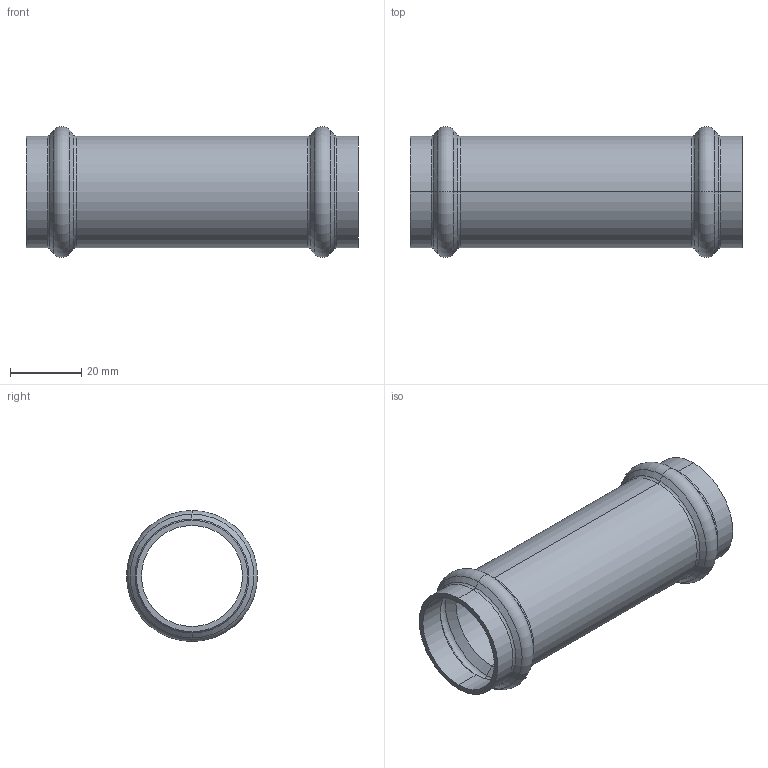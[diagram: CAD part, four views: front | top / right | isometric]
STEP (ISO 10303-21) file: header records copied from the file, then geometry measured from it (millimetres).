
FILE_DESCRIPTION (( 'STEP AP203' ), '1' );
FILE_NAME ('SP5275 28.STEP', '2017-04-24T09:22:55', ( '' ), ( '' ), 'SwSTEP 2.0', 'SolidWorks 2016', '' );
FILE_SCHEMA (( 'CONFIG_CONTROL_DESIGN' ));
Length unit declared in the file: millimetre
Products named in the file (1): SP5275 28
Bounding box: 93 x 36.7 x 36.7 mm (x, y, z)
Volume: 13335.5 mm3; surface area: 18883.5 mm2
Topology: 1 solids, 1 shells, 46 faces, 92 edges, 48 vertices
Faces by surface type: torus 16, cone 16, cylinder 12, plane 2
Entity records: 1261 total; most frequent: DIRECTION 250, CARTESIAN_POINT 187, ORIENTED_EDGE 184, AXIS2_PLACEMENT_3D 111, EDGE_CURVE 92, CIRCLE 64, EDGE_LOOP 48, VERTEX_POINT 48
